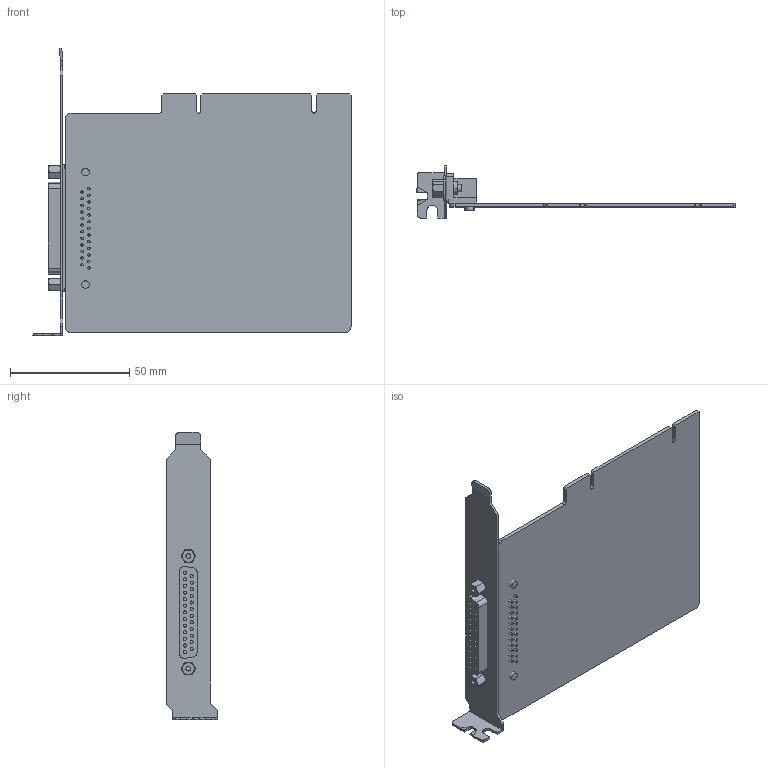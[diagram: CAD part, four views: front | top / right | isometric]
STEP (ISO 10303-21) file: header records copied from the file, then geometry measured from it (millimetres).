
FILE_DESCRIPTION((''),'2;1');
FILE_NAME('C32010T_ASM','2014-09-24T',('Vincent_Huang'),(''),'PRO/ENGINEER BY PARAMETRIC TECHNOLOGY CORPORATION, 2004320','PRO/ENGINEER BY PARAMETRIC TECHNOLOGY CORPORATION, 2004320','');
FILE_SCHEMA(('CONFIG_CONTROL_DESIGN'));
Length unit declared in the file: millimetre
Products named in the file (5): C32010T_BRAKET_PCB; C32010T_BRAKET_PCI; 1126004250000_DB25_FM90D; SPACER_M3X7L_; C32010T_ASM
Assembly tree (5 placements, depth 2):
  C32010T_ASM
    C32010T_BRAKET_PCB
    C32010T_BRAKET_PCI
    1126004250000_DB25_FM90D
    SPACER_M3X7L_  x2
Bounding box: 133.19 x 21.59 x 120.59 mm (x, y, z)
Surface area: 33898.3 mm2 (no closed solid volume)
Topology: 0 solids, 7 shells, 311 faces, 694 edges, 452 vertices
Faces by surface type: plane 150, cylinder 145, bspline 8, torus 8
Entity records: 8740 total; most frequent: CARTESIAN_POINT 1869, DIRECTION 1508, ORIENTED_EDGE 1296, EDGE_CURVE 650, AXIS2_PLACEMENT_3D 579, VERTEX_POINT 424, EDGE_LOOP 352, VECTOR 350
